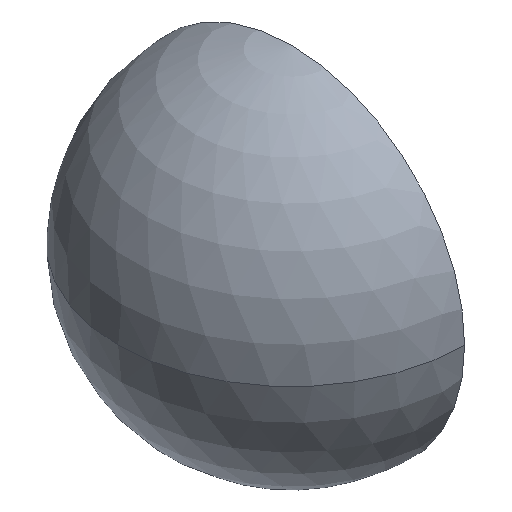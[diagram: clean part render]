
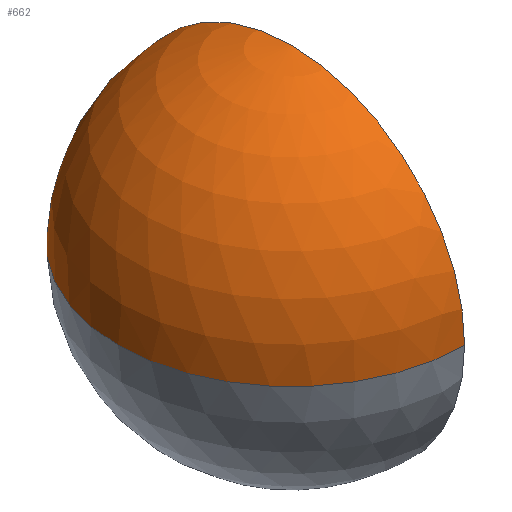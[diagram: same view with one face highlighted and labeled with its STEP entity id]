
A CAD part, isometric view. The second image highlights one B-rep face of the part: STEP entity #662.
In plain terms, the highlighted spherical face has radius 127 mm.
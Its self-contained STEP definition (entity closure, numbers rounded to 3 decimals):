
#34 = DIRECTION ( 'NONE',  ( 0., 0., 1. ) ) ;
#118 = EDGE_CURVE ( 'NONE', #210, #563, #2198, .T. ) ;
#151 = CARTESIAN_POINT ( 'NONE',  ( 0., 127., 0. ) ) ;
#210 = VERTEX_POINT ( 'NONE', #151 ) ;
#537 = FACE_OUTER_BOUND ( 'NONE', #1836, .T. ) ;
#563 = VERTEX_POINT ( 'NONE', #1125 ) ;
#624 = DIRECTION ( 'NONE',  ( 1., 0., 0. ) ) ;
#662 = ADVANCED_FACE ( 'NONE', ( #537 ), #949, .T. ) ;
#787 = DIRECTION ( 'NONE',  ( -1., 0., 0. ) ) ;
#949 = SPHERICAL_SURFACE ( 'NONE', #1166, 127. ) ;
#1115 = CARTESIAN_POINT ( 'NONE',  ( 0., 0., 0. ) ) ;
#1125 = CARTESIAN_POINT ( 'NONE',  ( 0., -127., 0. ) ) ;
#1148 = CARTESIAN_POINT ( 'NONE',  ( 0., 0., 0. ) ) ;
#1166 = AXIS2_PLACEMENT_3D ( 'NONE', #1148, #1516, #787 ) ;
#1299 = DIRECTION ( 'NONE',  ( 1., 0., 0. ) ) ;
#1376 = EDGE_CURVE ( 'NONE', #210, #563, #1431, .T. ) ;
#1431 = CIRCLE ( 'NONE', #1734, 127. ) ;
#1516 = DIRECTION ( 'NONE',  ( 0., 0., -1. ) ) ;
#1720 = CARTESIAN_POINT ( 'NONE',  ( 0., 0., 0. ) ) ;
#1734 = AXIS2_PLACEMENT_3D ( 'NONE', #1115, #34, #1299 ) ;
#1759 = ORIENTED_EDGE ( 'NONE', *, *, #118, .F. ) ;
#1796 = ORIENTED_EDGE ( 'NONE', *, *, #1376, .T. ) ;
#1836 = EDGE_LOOP ( 'NONE', ( #1759, #1796 ) ) ;
#1909 = DIRECTION ( 'NONE',  ( 0., 0., 1. ) ) ;
#2198 = CIRCLE ( 'NONE', #2205, 127. ) ;
#2205 = AXIS2_PLACEMENT_3D ( 'NONE', #1720, #624, #1909 ) ;
